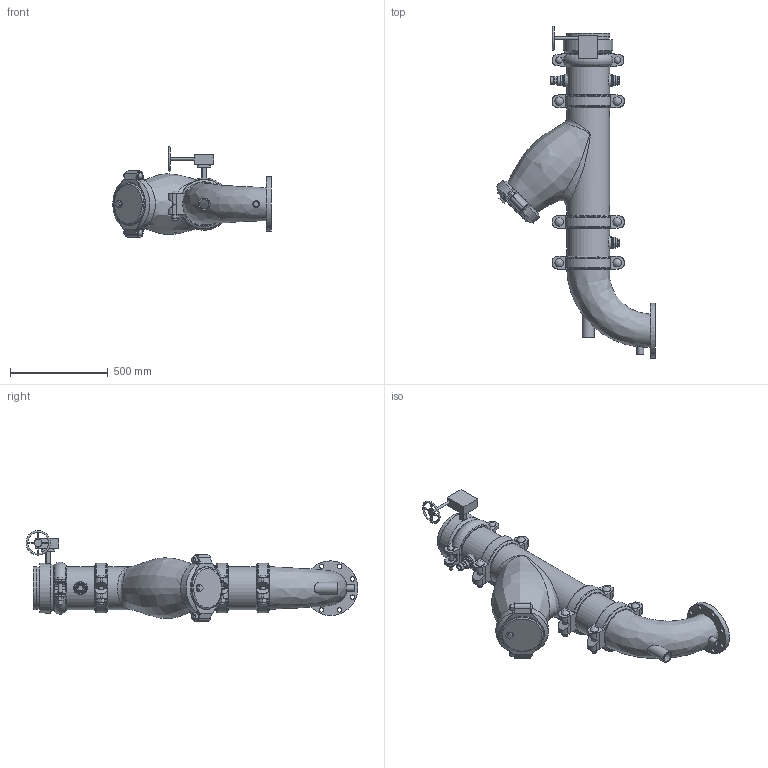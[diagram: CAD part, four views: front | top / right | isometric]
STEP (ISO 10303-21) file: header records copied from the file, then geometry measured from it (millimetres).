
FILE_DESCRIPTION(/* description */ ('VIC SVI PUMP DROP HORZ S/382 (OGSxFLG) (S/924-0.75)','CAx-IF Rec.Pracs.---Representation and Presentation of Product Manufacturing Information (PMI)---4.0---2014-10-13'),/* implementation_level */ '2;1');
FILE_NAME(/* name */ 'C:\Users\Vjadhav\AppData\Roaming\Autodesk\ApplicationPlugins\Victaulic.Temp\A115\Series 382 (OGSxFLG)_924 (0.75)_08.0x06.0 (200x150).stp',/* time_stamp */ '2022-03-17T12:20:10+06:00',/* author */ ('kkamble'),/* organization */ ('Victaulic'),/* preprocessor_version */ 'ST-DEVELOPER v17.2',/* originating_system */ 'Autodesk Inventor 2019',/* authorisation */ '');
FILE_SCHEMA (('AP242_MANAGED_MODEL_BASED_3D_ENGINEERING_MIM_LF { 1 0 10303 442 1 1 4 }'));
Length unit declared in the file: inch
Products named in the file (13): 382_924 (0.75)-08.0x06.0; PIPE-08.0; 107N-08.0; 732-08.0; 732-08.0_1; 07-08.0; 732-08.0_2; PIPE-08.2; 761-08.0; 177N-08.0; 924-04.0x0.75; 923-10.0x0.75; R100F-08.0x06.0
Assembly tree (15 placements, depth 3):
  382_924 (0.75)-08.0x06.0
    PIPE-08.0
    107N-08.0
    732-08.0
      732-08.0_1
      07-08.0
      732-08.0_2
    177N-08.0  x3
    PIPE-08.2
    761-08.0
    924-04.0x0.75
    923-10.0x0.75  x2
    R100F-08.0x06.0
Bounding box: 809.75 x 1696.84 x 463.13 mm (x, y, z)
Volume: 21984084.4 mm3; surface area: 4196701.2 mm2
Topology: 14 solids, 17 shells, 846 faces, 2215 edges, 1472 vertices
Faces by surface type: plane 476, cylinder 272, torus 31, bspline 30, cone 27, sphere 10
Full cylindrical faces by diameter (mm): 8.636 x4, 12.446 x1, 12.7 x1, 19.05 x8, 21.336 x2, 22.225 x6, 22.352 x8, 22.86 x1, 26.67 x4, 32.537 x4, 34.29 x1, 38.1 x1, 38.608 x1, 39.125 x1, 42.85 x6, 45.974 x6, 48.26 x1, 55.118 x1, 55.626 x3, 60.96 x1, 76.2 x2, 154.051 x1, 190.5 x1, 202.463 x1, 202.717 x4, 202.819 x1, 206.375 x5, 214.401 x11, 219.075 x26, 254 x1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
Entity records: 25355 total; most frequent: CARTESIAN_POINT 8905, DIRECTION 3322, ORIENTED_EDGE 3134, EDGE_CURVE 1567, AXIS2_PLACEMENT_3D 1270, VERTEX_POINT 1049, LINE 782, VECTOR 782
